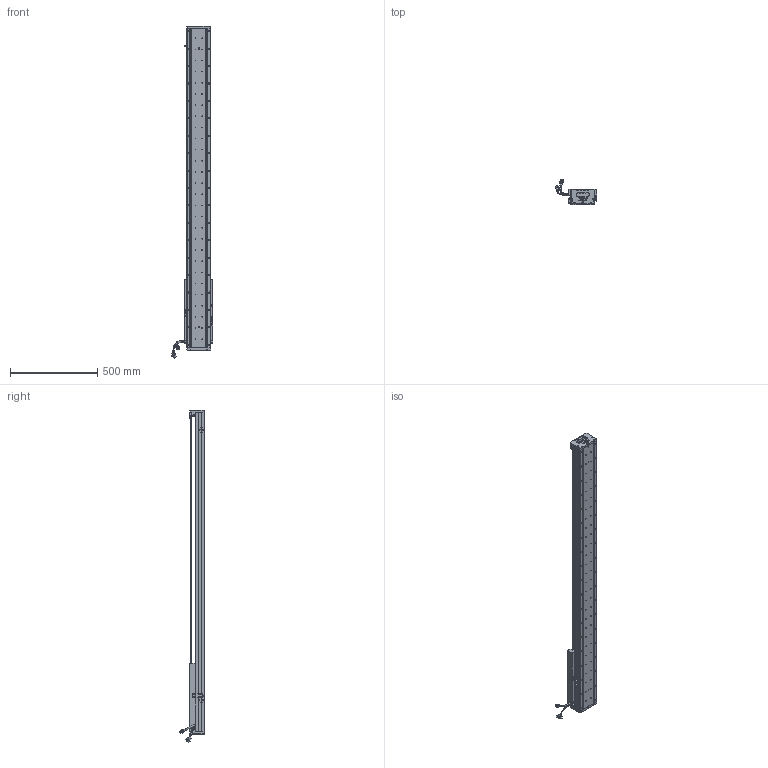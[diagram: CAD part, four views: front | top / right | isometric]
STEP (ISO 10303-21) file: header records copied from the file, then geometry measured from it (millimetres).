
FILE_DESCRIPTION (( 'STEP AP203' ), '1' );
FILE_NAME ('Z5-RY140D-1-L500-B-K.SLDASM_1400.step', '2021-05-17T08:36:41', ( '盈信电脑' ), ( '东莞市道滘镇水果街19号' ), 'SwSTEP 2.0', 'SolidWorks 2016', '' );
FILE_SCHEMA (( 'CONFIG_CONTROL_DESIGN' ));
Length unit declared in the file: millimetre
Products named in the file (36): COVER; HARNESS-Part-1; SCALE-Part-1; SCREW-M1.6-3; Z5-RY140D-1-L500-B-K.SLDASM_1400; HARNESS-Part-2; Z5-RY140-L500直线电机模组底座_1400; SEAL; SCREW-M1.7; LABEL-Part-1; 140雄赽晤鎢ん堤盄; 詩湍狟揤裔; 140蚥薯蝶輸; COVER-Part-1; 榋妏寠巭燃_暯_M2_2; PBU_SHEET; 080黍杅芛假蚾釱21遴; HARNESS; SHIELDPLATE; SCREW-M1.6; Z5-RY140-L500詩湍100mm遵_1400; SEAL-Part-1; SCREW-M1.6-1; SCREW-M1.6-2; PSLH080_PSLF2; Z5-RY140圉猾敕臏賑輸(21遴); SCALE; LABEL; 140-Z-臏賑輸盄裔(21遴); 詩湍奻揤裔; Z-RY140感应器672光电感应片; 覜茼ん672; SCREW-M1.7-1; Z-140詩湍傷裔啣; HOLDER0; SCALE-Part-2
Assembly tree (41 placements, depth 4):
  Z5-RY140D-1-L500-B-K.SLDASM_1400
    Z5-RY140-L500直线电机模组底座_1400
    Z-RY140感应器672光电感应片
    Z5-RY140圉猾敕臏賑輸(21遴)
    覜茼ん672  x3
    Z5-RY140-L500詩湍100mm遵_1400
    PSLH080_PSLF2
      SCALE
        SCALE-Part-1
        SCALE-Part-2
      HARNESS
        HARNESS-Part-1
        HARNESS-Part-2
      LABEL
        LABEL-Part-1
      COVER
        COVER-Part-1
      SEAL
        SEAL-Part-1
      榋妏寠巭燃_暯_M2_2
      SHIELDPLATE
      SCREW-M1.7
      SCREW-M1.7-1
      PBU_SHEET
      SCREW-M1.6
      SCREW-M1.6-1
      SCREW-M1.6-2
      SCREW-M1.6-3
      HOLDER0
    080黍杅芛假蚾釱21遴
    140-Z-臏賑輸盄裔(21遴)
    Z-140詩湍傷裔啣  x2
    詩湍狟揤裔  x2
    詩湍奻揤裔  x2
    140蚥薯蝶輸  x2
    140雄赽晤鎢ん堤盄
Bounding box: 239.83 x 143.88 x 1905.87 mm (x, y, z)
Volume: 6780253.4 mm3; surface area: 1722937.7 mm2
Topology: 36 solids, 36 shells, 3666 faces, 9858 edges, 6249 vertices
Faces by surface type: cylinder 1908, plane 1282, cone 354, torus 69, bspline 53
Entity records: 113270 total; most frequent: CARTESIAN_POINT 30709, ORIENTED_EDGE 16732, DIRECTION 15910, EDGE_CURVE 8366, AXIS2_PLACEMENT_3D 5914, VERTEX_POINT 5417, LINE 4082, VECTOR 4082
